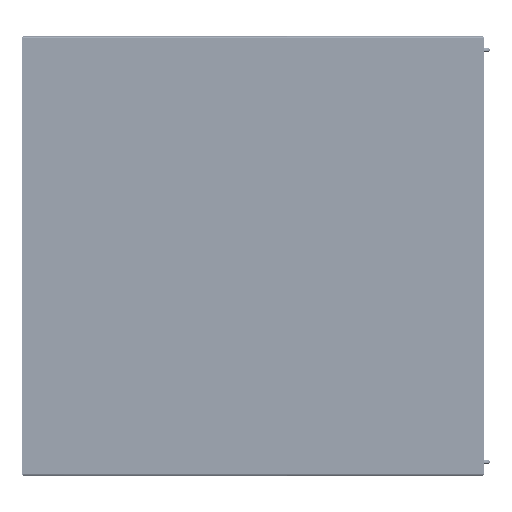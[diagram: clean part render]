
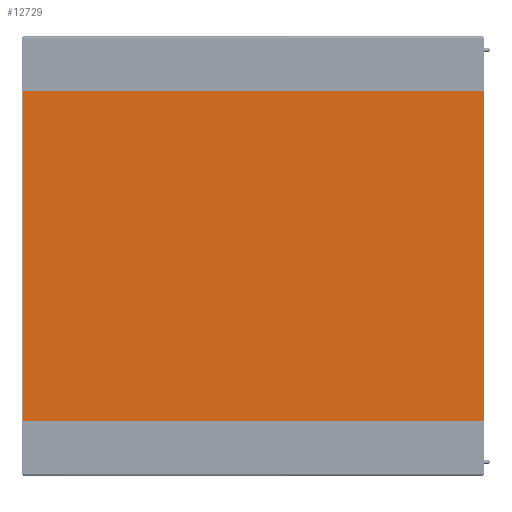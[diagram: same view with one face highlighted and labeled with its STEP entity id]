
A CAD part, left-side view. The second image highlights one B-rep face of the part: STEP entity #12729.
In plain terms, the highlighted planar face has unit normal (-1, 0, 0) as drawn and (0, 1, 0) by its records, which use the part's own axes.
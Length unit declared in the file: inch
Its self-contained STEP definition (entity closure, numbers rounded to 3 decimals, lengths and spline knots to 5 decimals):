
#12390=CARTESIAN_POINT('',(22.47,0.,29.866));
#12391=DIRECTION('',(0.,1.,0.));
#12392=DIRECTION('',(0.,0.,1.));
#12393=AXIS2_PLACEMENT_3D('',#12390,#12391,#12392);
#12398=CARTESIAN_POINT('',(-22.47,0.,29.866));
#12399=DIRECTION('',(0.,1.,0.));
#12400=DIRECTION('',(-1.,0.,0.));
#12401=AXIS2_PLACEMENT_3D('',#12398,#12399,#12400);
#12406=CARTESIAN_POINT('',(-22.47,0.,-33.04259));
#12407=DIRECTION('',(0.,1.,0.));
#12408=DIRECTION('',(0.,0.,-1.));
#12409=AXIS2_PLACEMENT_3D('',#12406,#12407,#12408);
#12414=DIRECTION('',(-1.,0.,0.));
#12415=VECTOR('',#12414,44.94);
#12416=CARTESIAN_POINT('',(22.47,0.,-33.07259));
#12417=LINE('',#12416,#12415);
#12421=CARTESIAN_POINT('',(22.47,0.,-33.04259));
#12422=DIRECTION('',(0.,1.,0.));
#12423=DIRECTION('',(1.,0.,0.));
#12424=AXIS2_PLACEMENT_3D('',#12421,#12422,#12423);
#12436=DIRECTION('',(0.,0.,-1.));
#12437=VECTOR('',#12436,62.90859);
#12438=CARTESIAN_POINT('',(22.5,0.,29.866));
#12439=LINE('',#12438,#12437);
#12492=DIRECTION('',(0.,0.,1.));
#12493=VECTOR('',#12492,62.90859);
#12494=CARTESIAN_POINT('',(-22.5,0.,-33.04259));
#12495=LINE('',#12494,#12493);
#12520=DIRECTION('',(-1.,0.,0.));
#12521=VECTOR('',#12520,44.94);
#12522=CARTESIAN_POINT('',(22.47,0.,29.896));
#12523=LINE('',#12522,#12521);
#12658=CARTESIAN_POINT('',(22.47,0.,29.896));
#12659=CARTESIAN_POINT('',(22.5,0.,29.866));
#12660=VERTEX_POINT('',#12658);
#12661=VERTEX_POINT('',#12659);
#12666=CARTESIAN_POINT('',(-22.5,0.,29.866));
#12667=CARTESIAN_POINT('',(-22.47,0.,29.896));
#12668=VERTEX_POINT('',#12666);
#12669=VERTEX_POINT('',#12667);
#12674=CARTESIAN_POINT('',(-22.5,0.,-33.04259));
#12675=VERTEX_POINT('',#12674);
#12676=CARTESIAN_POINT('',(22.5,0.,-33.04259));
#12677=VERTEX_POINT('',#12676);
#12682=CARTESIAN_POINT('',(-22.47,0.,-33.07259));
#12683=VERTEX_POINT('',#12682);
#12686=CARTESIAN_POINT('',(22.47,0.,-33.07259));
#12687=VERTEX_POINT('',#12686);
#12706=CARTESIAN_POINT('',(22.5,0.,29.896));
#12707=DIRECTION('',(0.,1.,0.));
#12708=DIRECTION('',(-1.,0.,0.));
#12709=AXIS2_PLACEMENT_3D('',#12706,#12707,#12708);
#12710=PLANE('',#12709);
#12712=ORIENTED_EDGE('',*,*,#12711,.F.);
#12714=ORIENTED_EDGE('',*,*,#12713,.T.);
#12716=ORIENTED_EDGE('',*,*,#12715,.F.);
#12718=ORIENTED_EDGE('',*,*,#12717,.F.);
#12720=ORIENTED_EDGE('',*,*,#12719,.F.);
#12722=ORIENTED_EDGE('',*,*,#12721,.F.);
#12724=ORIENTED_EDGE('',*,*,#12723,.F.);
#12726=ORIENTED_EDGE('',*,*,#12725,.F.);
#12727=EDGE_LOOP('',(#12712,#12714,#12716,#12718,#12720,#12722,#12724,#12726));
#12728=FACE_OUTER_BOUND('',#12727,.F.);
#12394=CIRCLE('',#12393,0.03);
#12402=CIRCLE('',#12401,0.03);
#12410=CIRCLE('',#12409,0.03);
#12425=CIRCLE('',#12424,0.03);
#12711=EDGE_CURVE('',#12660,#12661,#12394,.T.);
#12713=EDGE_CURVE('',#12660,#12669,#12523,.T.);
#12715=EDGE_CURVE('',#12668,#12669,#12402,.T.);
#12717=EDGE_CURVE('',#12675,#12668,#12495,.T.);
#12719=EDGE_CURVE('',#12683,#12675,#12410,.T.);
#12721=EDGE_CURVE('',#12687,#12683,#12417,.T.);
#12723=EDGE_CURVE('',#12677,#12687,#12425,.T.);
#12725=EDGE_CURVE('',#12661,#12677,#12439,.T.);
#12729=ADVANCED_FACE('',(#12728),#12710,.T.);
